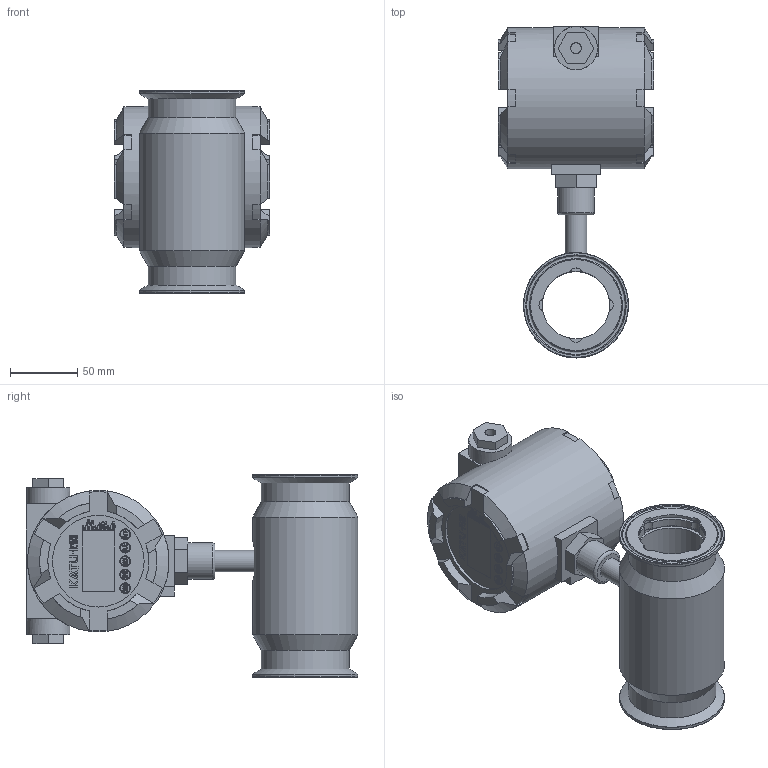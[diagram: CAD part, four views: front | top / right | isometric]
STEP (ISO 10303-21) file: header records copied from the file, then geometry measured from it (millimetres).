
FILE_DESCRIPTION( (''), '2;1');
FILE_NAME( 'QTKC_DN50_tri-clamp_Ex.step', '2024-10-14T13:44:27+08:00', (''), (''), '', '', '');
FILE_SCHEMA (('AUTOMOTIVE_DESIGN { 1 0 10303 214 3 1 1 1 }'));
Length unit declared in the file: millimetre
Products named in the file (1): QTKC DN50_tri-clamp_Ex
Bounding box: 115 x 246 x 150 mm (x, y, z)
Volume: 1297817.4 mm3; surface area: 149710.5 mm2
Topology: 4 solids, 4 shells, 1402 faces, 3814 edges, 2524 vertices
Faces by surface type: plane 748, extrusion 504, cylinder 108, cone 24, torus 16, bspline 2
Full cylindrical faces by diameter (mm): 3.3 x1, 8 x2, 16 x1, 17.581 x1, 18.5 x1, 20 x2, 27 x1, 32 x2, 50 x1, 55 x4, 65 x2, 68 x1, 78 x3, 105 x1
Entity records: 47780 total; most frequent: CARTESIAN_POINT 14527, ORIENTED_EDGE 7486, DIRECTION 5249, EDGE_CURVE 3743, VECTOR 2817, VERTEX_POINT 2503, LINE 2313, B_SPLINE_CURVE_WITH_KNOTS 1615
